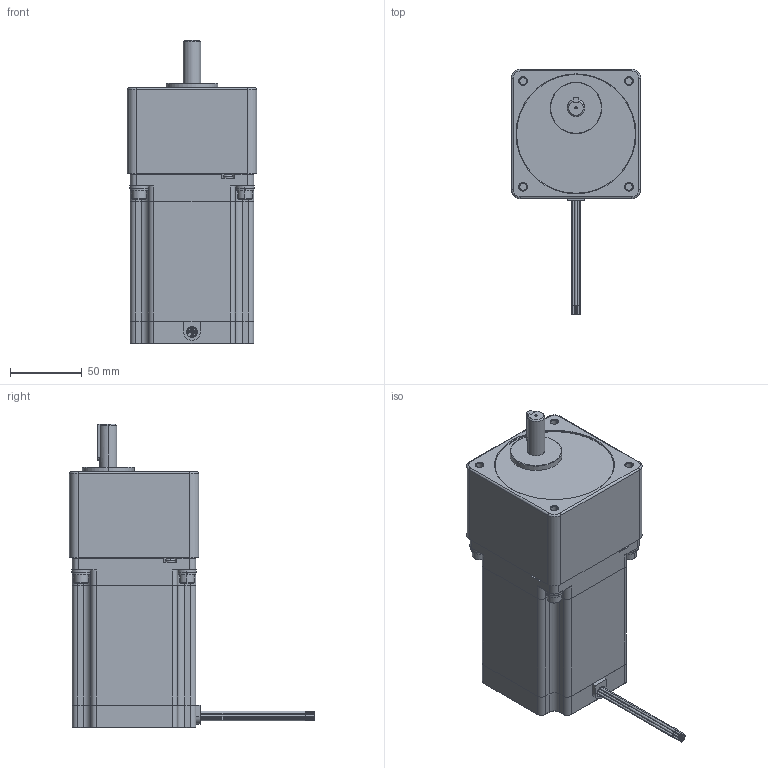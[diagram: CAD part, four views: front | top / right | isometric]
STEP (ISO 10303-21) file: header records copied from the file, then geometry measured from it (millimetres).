
FILE_DESCRIPTION (( 'STEP AP214' ), '1' );
FILE_NAME ('34YSG208S-LW8-R50.STEP', '2010-06-18T16:47:58', ( 'Tim Raines' ), ( 'Anaheim Automation' ), 'SwSTEP 2.0', 'SolidWorks 2010', '' );
FILE_SCHEMA (( 'AUTOMOTIVE_DESIGN' ));
Length unit declared in the file: millimetre
Products named in the file (6): 34SG Series_34SG2; 34YSG Motor_34YSG208S-LW8; Lock Washer Spring Regular_AI_Regular LW 0.25; Flat Washer Narrow_AM_B18.22M - Plain washer, 6 mm, narrow; 34YSG208S-LW8-R50; Socket Head Cap Screw_AM_B18.3.1M - 6 x 1.0 x 20 Hex SHCS -- 20NHX
Assembly tree (14 placements, depth 2):
  34YSG208S-LW8-R50
    Lock Washer Spring Regular_AI_Regular LW 0.25  x4
    34SG Series_34SG2
    Socket Head Cap Screw_AM_B18.3.1M - 6 x 1.0 x 20 Hex SHCS -- 20NHX  x4
    Flat Washer Narrow_AM_B18.22M - Plain washer, 6 mm, narrow  x4
    34YSG Motor_34YSG208S-LW8
Bounding box: 89.92 x 170.43 x 211.1 mm (x, y, z)
Volume: 1267363.7 mm3; surface area: 109125.9 mm2
Topology: 14 solids, 14 shells, 575 faces, 1363 edges, 848 vertices
Faces by surface type: plane 272, cylinder 190, cone 93, torus 20
Entity records: 18465 total; most frequent: CARTESIAN_POINT 2581, DIRECTION 2415, ORIENTED_EDGE 2214, EDGE_CURVE 1107, AXIS2_PLACEMENT_3D 895, VERTEX_POINT 701, VECTOR 625, LINE 625
